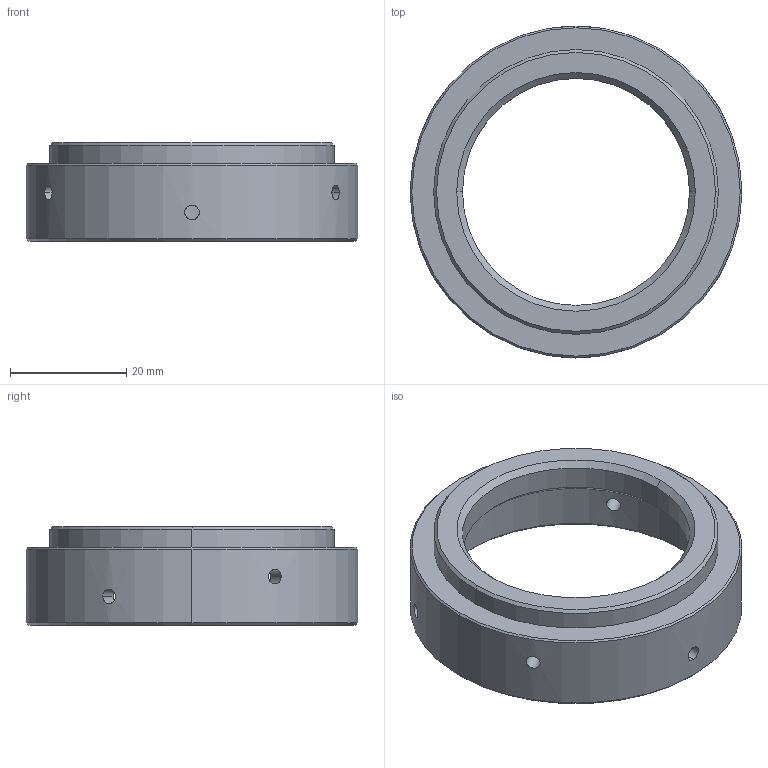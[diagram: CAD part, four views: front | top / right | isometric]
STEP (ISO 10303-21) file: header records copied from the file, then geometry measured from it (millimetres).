
FILE_DESCRIPTION (( 'STEP AP214' ), '1' );
FILE_NAME ('F80C-TUBE-Spacer A.STEP', '2026-03-02T00:33:34', ( '' ), ( '' ), 'SwSTEP 2.0', 'SolidWorks 2025', '' );
FILE_SCHEMA (( 'AUTOMOTIVE_DESIGN' ));
Length unit declared in the file: millimetre
Products named in the file (1): F80C-TUBE-Spacer A
Bounding box: 57 x 57 x 17 mm (x, y, z)
Volume: 11891.7 mm3; surface area: 7919.7 mm2
Topology: 1 solids, 1 shells, 36 faces, 84 edges, 52 vertices
Faces by surface type: cylinder 20, cone 12, plane 4
Entity records: 1479 total; most frequent: CARTESIAN_POINT 629, ORIENTED_EDGE 168, DIRECTION 162, EDGE_CURVE 84, AXIS2_PLACEMENT_3D 65, EDGE_LOOP 52, VERTEX_POINT 52, ADVANCED_FACE 36
